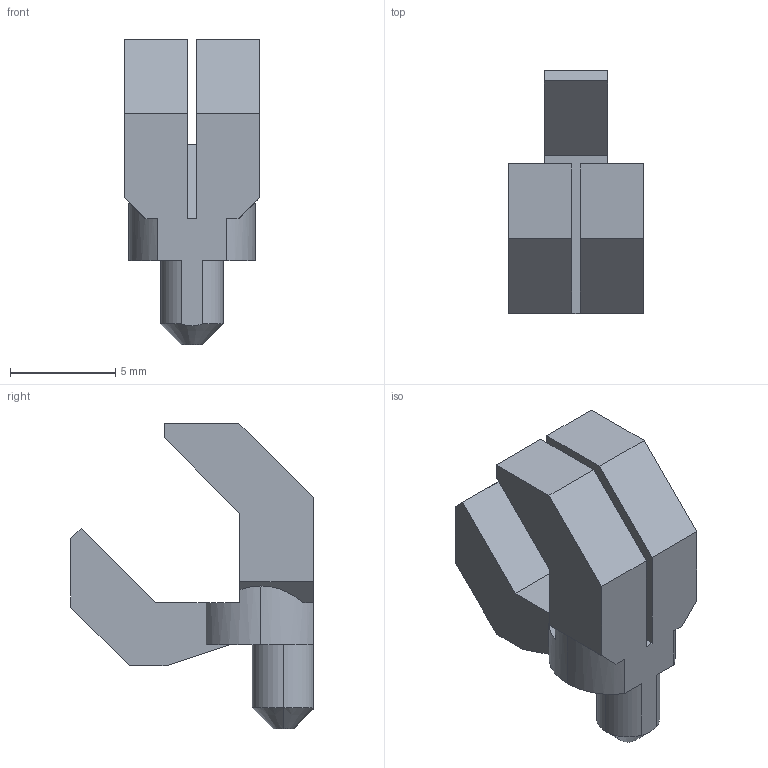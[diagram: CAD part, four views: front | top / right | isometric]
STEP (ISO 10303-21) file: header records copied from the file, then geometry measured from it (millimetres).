
FILE_DESCRIPTION (( 'STEP AP203' ), '1' );
FILE_NAME ('hand.step', '2023-08-15T08:05:40', ( '' ), ( '' ), 'SwSTEP 2.0', 'SolidWorks 2020', '' );
FILE_SCHEMA (( 'CONFIG_CONTROL_DESIGN' ));
Length unit declared in the file: millimetre
Products named in the file (1): hand
Bounding box: 6.4 x 11.54 x 14.54 mm (x, y, z)
Volume: 338.8 mm3; surface area: 471.8 mm2
Topology: 1 solids, 1 shells, 38 faces, 106 edges, 70 vertices
Faces by surface type: plane 30, cylinder 6, cone 2
Entity records: 1289 total; most frequent: CARTESIAN_POINT 229, ORIENTED_EDGE 212, DIRECTION 195, EDGE_CURVE 106, VECTOR 87, LINE 87, VERTEX_POINT 70, AXIS2_PLACEMENT_3D 54
